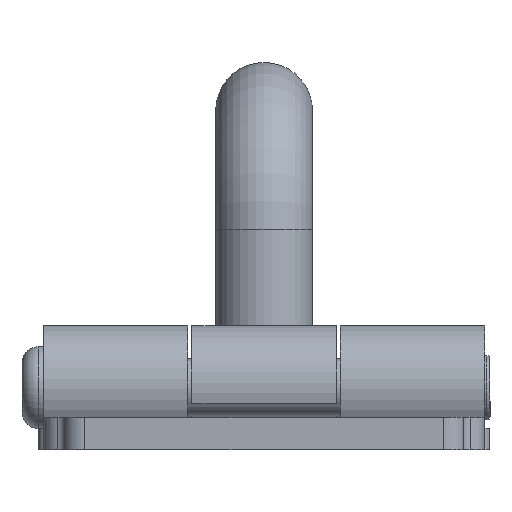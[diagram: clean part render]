
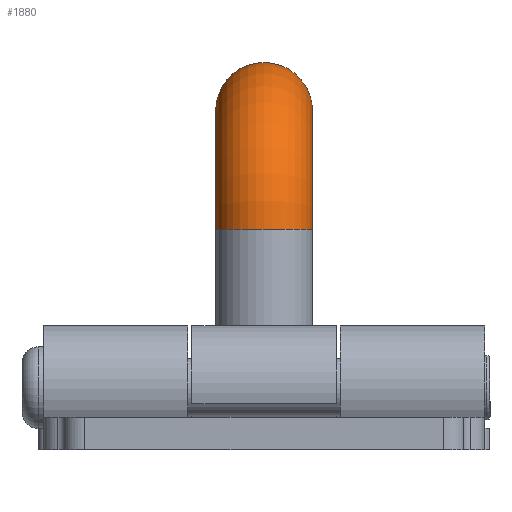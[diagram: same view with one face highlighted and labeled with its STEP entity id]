
A CAD part, left-side view. The second image highlights one B-rep face of the part: STEP entity #1880.
In plain terms, the highlighted toroidal (fillet/blend) face has major radius 11 mm and minor radius 4.5 mm.
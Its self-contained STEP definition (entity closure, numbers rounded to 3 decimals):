
#30=TOROIDAL_SURFACE('',#2090,11.,4.5);
#90=FACE_BOUND('',#393,.T.);
#237=FACE_OUTER_BOUND('',#392,.T.);
#392=EDGE_LOOP('',(#1582));
#393=EDGE_LOOP('',(#1583));
#812=CIRCLE('',#2081,4.5);
#817=CIRCLE('',#2089,4.5);
#970=VERTEX_POINT('',#3155);
#975=VERTEX_POINT('',#3168);
#1181=EDGE_CURVE('',#970,#970,#812,.T.);
#1186=EDGE_CURVE('',#975,#975,#817,.T.);
#1582=ORIENTED_EDGE('',*,*,#1186,.T.);
#1583=ORIENTED_EDGE('',*,*,#1181,.F.);
#1880=ADVANCED_FACE('',(#237,#90),#30,.T.);
#2081=AXIS2_PLACEMENT_3D('',#3156,#2563,#2564);
#2089=AXIS2_PLACEMENT_3D('',#3169,#2579,#2580);
#2090=AXIS2_PLACEMENT_3D('',#3170,#2581,#2582);
#2563=DIRECTION('center_axis',(0.,1.,0.));
#2564=DIRECTION('ref_axis',(1.,0.,0.));
#2579=DIRECTION('center_axis',(0.,0.,-1.));
#2580=DIRECTION('ref_axis',(1.,0.,0.));
#2581=DIRECTION('center_axis',(-1.,0.,0.));
#2582=DIRECTION('ref_axis',(0.,0.,1.));
#3155=CARTESIAN_POINT('',(-4.5,-14.8,-11.5));
#3156=CARTESIAN_POINT('Origin',(0.,-14.8,-11.5));
#3168=CARTESIAN_POINT('',(-4.5,-25.8,-0.5));
#3169=CARTESIAN_POINT('Origin',(0.,-25.8,-0.5));
#3170=CARTESIAN_POINT('Origin',(0.,-14.8,-0.5));
